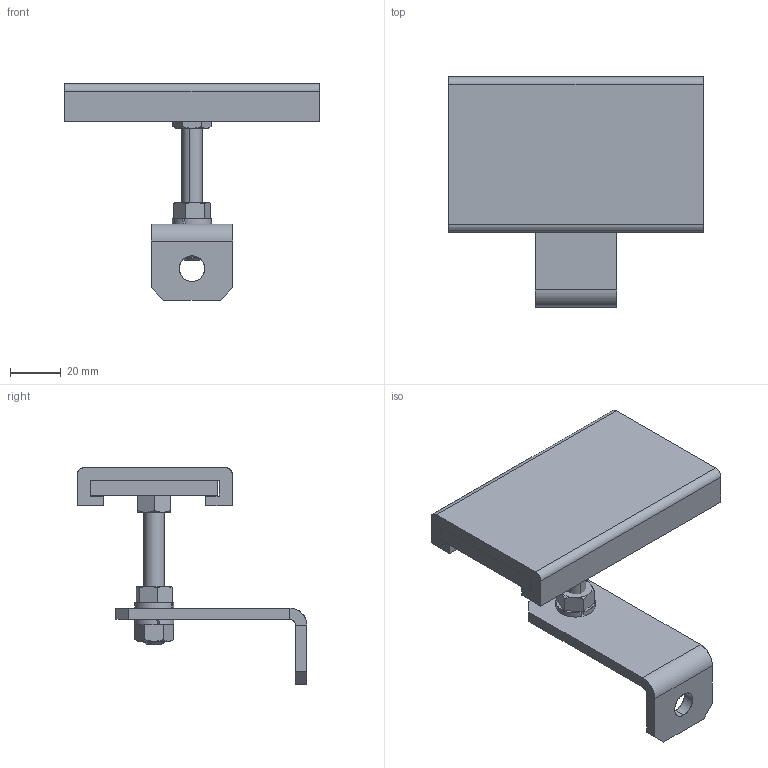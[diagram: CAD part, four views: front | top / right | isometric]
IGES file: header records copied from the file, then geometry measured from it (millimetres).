
Start section: SolidWorks IGES file using analytic representation for surfaces
Global section: file name: \\3d-ls520\Public\DATA\標準部品\共通部品\ｶﾞｲﾄﾞ\ガイドHP用\F型.IGS; native system: SolidWorks 2021; preprocessor: SolidWorks 2021; author: 0967; date: 240201.105538; units: millimetre
Bounding box: 100 x 90.25 x 85.15 mm (x, y, z)
Surface area: 43782.1 mm2 (no closed solid volume)
Topology: 0 solids, 0 shells, 118 faces, 1562 edges, 1562 vertices
Faces by surface type: bspline 70, revolution 48
